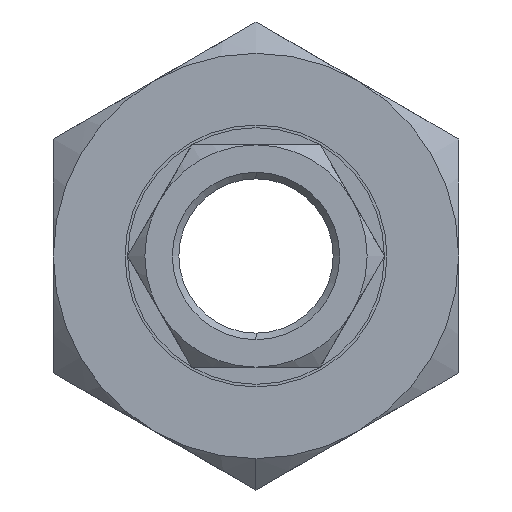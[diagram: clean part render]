
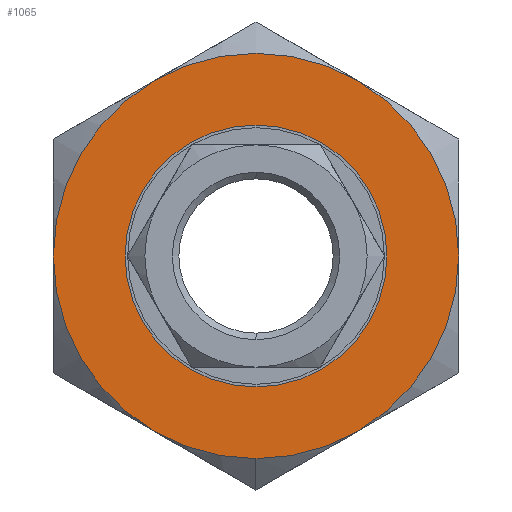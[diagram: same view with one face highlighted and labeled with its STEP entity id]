
A CAD part, front view. The second image highlights one B-rep face of the part: STEP entity #1065.
In plain terms, the highlighted planar face has unit normal (0, -1, 0).
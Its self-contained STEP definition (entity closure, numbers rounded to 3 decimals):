
#45 = CARTESIAN_POINT ( 'NONE',  ( 0., -7.5, 0. ) ) ;
#143 = AXIS2_PLACEMENT_3D ( 'NONE', #2427, #2167, #1895 ) ;
#152 = CIRCLE ( 'NONE', #143, 15.5 ) ;
#156 = CARTESIAN_POINT ( 'NONE',  ( -7.75, -7.5, -13.423 ) ) ;
#191 = DIRECTION ( 'NONE',  ( 0., 0., 1. ) ) ;
#202 = DIRECTION ( 'NONE',  ( 0., 0., 1. ) ) ;
#229 = ORIENTED_EDGE ( 'NONE', *, *, #1246, .F. ) ;
#256 = DIRECTION ( 'NONE',  ( 0., -1., 0. ) ) ;
#311 = EDGE_LOOP ( 'NONE', ( #1686, #2572, #1192, #1688, #461, #229, #418 ) ) ;
#330 = DIRECTION ( 'NONE',  ( 0., 0., 1. ) ) ;
#346 = CARTESIAN_POINT ( 'NONE',  ( 0., -7.5, -15.5 ) ) ;
#364 = CIRCLE ( 'NONE', #1714, 15.5 ) ;
#374 = DIRECTION ( 'NONE',  ( 0., 0., 1. ) ) ;
#398 = FACE_BOUND ( 'NONE', #1138, .T. ) ;
#416 = AXIS2_PLACEMENT_3D ( 'NONE', #912, #662, #374 ) ;
#418 = ORIENTED_EDGE ( 'NONE', *, *, #1402, .T. ) ;
#455 = CARTESIAN_POINT ( 'NONE',  ( 0., -7.5, 10.015 ) ) ;
#461 = ORIENTED_EDGE ( 'NONE', *, *, #1346, .F. ) ;
#471 = DIRECTION ( 'NONE',  ( 0., 1., 0. ) ) ;
#478 = VERTEX_POINT ( 'NONE', #1751 ) ;
#480 = DIRECTION ( 'NONE',  ( 0., 1., 0. ) ) ;
#536 = CARTESIAN_POINT ( 'NONE',  ( 0., -7.5, 0. ) ) ;
#567 = CIRCLE ( 'NONE', #1361, 10.015 ) ;
#616 = CARTESIAN_POINT ( 'NONE',  ( 7.75, -7.5, -13.423 ) ) ;
#622 = DIRECTION ( 'NONE',  ( 0., 1., 0. ) ) ;
#662 = DIRECTION ( 'NONE',  ( 0., 1., 0. ) ) ;
#710 = EDGE_CURVE ( 'NONE', #1855, #1609, #1165, .T. ) ;
#742 = CARTESIAN_POINT ( 'NONE',  ( 0., -7.5, 0. ) ) ;
#752 = CARTESIAN_POINT ( 'NONE',  ( 0., -7.5, 0. ) ) ;
#873 = DIRECTION ( 'NONE',  ( 0., 0., 1. ) ) ;
#879 = CARTESIAN_POINT ( 'NONE',  ( 0., -7.5, 0. ) ) ;
#912 = CARTESIAN_POINT ( 'NONE',  ( 0., -7.5, 0. ) ) ;
#959 = EDGE_CURVE ( 'NONE', #1981, #478, #2357, .T. ) ;
#1060 = DIRECTION ( 'NONE',  ( 0., 0., 1. ) ) ;
#1065 = ADVANCED_FACE ( 'NONE', ( #1971, #398 ), #1940, .F. ) ;
#1078 = VERTEX_POINT ( 'NONE', #616 ) ;
#1122 = EDGE_CURVE ( 'NONE', #478, #1981, #567, .T. ) ;
#1138 = EDGE_LOOP ( 'NONE', ( #2184, #2135 ) ) ;
#1144 = DIRECTION ( 'NONE',  ( 0., 1., 0. ) ) ;
#1165 = CIRCLE ( 'NONE', #416, 15.5 ) ;
#1188 = CARTESIAN_POINT ( 'NONE',  ( 15.5, -7.5, 0. ) ) ;
#1192 = ORIENTED_EDGE ( 'NONE', *, *, #1921, .F. ) ;
#1225 = VERTEX_POINT ( 'NONE', #1698 ) ;
#1244 = AXIS2_PLACEMENT_3D ( 'NONE', #2524, #2256, #1994 ) ;
#1246 = EDGE_CURVE ( 'NONE', #1078, #1540, #152, .T. ) ;
#1272 = VERTEX_POINT ( 'NONE', #156 ) ;
#1276 = VERTEX_POINT ( 'NONE', #1463 ) ;
#1307 = AXIS2_PLACEMENT_3D ( 'NONE', #742, #471, #191 ) ;
#1339 = DIRECTION ( 'NONE',  ( 0., 1., 0. ) ) ;
#1346 = EDGE_CURVE ( 'NONE', #1540, #1272, #2581, .T. ) ;
#1361 = AXIS2_PLACEMENT_3D ( 'NONE', #752, #480, #202 ) ;
#1402 = EDGE_CURVE ( 'NONE', #1078, #1609, #364, .T. ) ;
#1422 = CARTESIAN_POINT ( 'NONE',  ( 0., -7.5, 0. ) ) ;
#1442 = EDGE_CURVE ( 'NONE', #1276, #1855, #1590, .T. ) ;
#1463 = CARTESIAN_POINT ( 'NONE',  ( -7.75, -7.5, 13.423 ) ) ;
#1472 = AXIS2_PLACEMENT_3D ( 'NONE', #1422, #1144, #873 ) ;
#1540 = VERTEX_POINT ( 'NONE', #346 ) ;
#1590 = CIRCLE ( 'NONE', #2182, 15.5 ) ;
#1609 = VERTEX_POINT ( 'NONE', #1188 ) ;
#1686 = ORIENTED_EDGE ( 'NONE', *, *, #710, .F. ) ;
#1688 = ORIENTED_EDGE ( 'NONE', *, *, #2470, .F. ) ;
#1698 = CARTESIAN_POINT ( 'NONE',  ( -15.5, -7.5, 0. ) ) ;
#1714 = AXIS2_PLACEMENT_3D ( 'NONE', #536, #256, #2611 ) ;
#1751 = CARTESIAN_POINT ( 'NONE',  ( 0., -7.5, -10.015 ) ) ;
#1855 = VERTEX_POINT ( 'NONE', #2297 ) ;
#1861 = DIRECTION ( 'NONE',  ( 0., 0., 1. ) ) ;
#1895 = DIRECTION ( 'NONE',  ( 0., 0., 1. ) ) ;
#1921 = EDGE_CURVE ( 'NONE', #1225, #1276, #2194, .T. ) ;
#1940 = PLANE ( 'NONE',  #1472 ) ;
#1971 = FACE_OUTER_BOUND ( 'NONE', #311, .T. ) ;
#1981 = VERTEX_POINT ( 'NONE', #455 ) ;
#1994 = DIRECTION ( 'NONE',  ( 0., 0., 1. ) ) ;
#2119 = DIRECTION ( 'NONE',  ( 0., 1., 0. ) ) ;
#2134 = AXIS2_PLACEMENT_3D ( 'NONE', #2381, #2119, #1861 ) ;
#2135 = ORIENTED_EDGE ( 'NONE', *, *, #959, .T. ) ;
#2167 = DIRECTION ( 'NONE',  ( 0., 1., 0. ) ) ;
#2182 = AXIS2_PLACEMENT_3D ( 'NONE', #879, #622, #330 ) ;
#2184 = ORIENTED_EDGE ( 'NONE', *, *, #1122, .T. ) ;
#2194 = CIRCLE ( 'NONE', #2134, 15.5 ) ;
#2200 = CIRCLE ( 'NONE', #1307, 15.5 ) ;
#2256 = DIRECTION ( 'NONE',  ( 0., 1., 0. ) ) ;
#2297 = CARTESIAN_POINT ( 'NONE',  ( 7.75, -7.5, 13.423 ) ) ;
#2357 = CIRCLE ( 'NONE', #2484, 10.015 ) ;
#2381 = CARTESIAN_POINT ( 'NONE',  ( 0., -7.5, 0. ) ) ;
#2427 = CARTESIAN_POINT ( 'NONE',  ( 0., -7.5, 0. ) ) ;
#2470 = EDGE_CURVE ( 'NONE', #1272, #1225, #2200, .T. ) ;
#2484 = AXIS2_PLACEMENT_3D ( 'NONE', #45, #1339, #1060 ) ;
#2524 = CARTESIAN_POINT ( 'NONE',  ( 0., -7.5, 0. ) ) ;
#2572 = ORIENTED_EDGE ( 'NONE', *, *, #1442, .F. ) ;
#2581 = CIRCLE ( 'NONE', #1244, 15.5 ) ;
#2611 = DIRECTION ( 'NONE',  ( 0., 0., -1. ) ) ;
